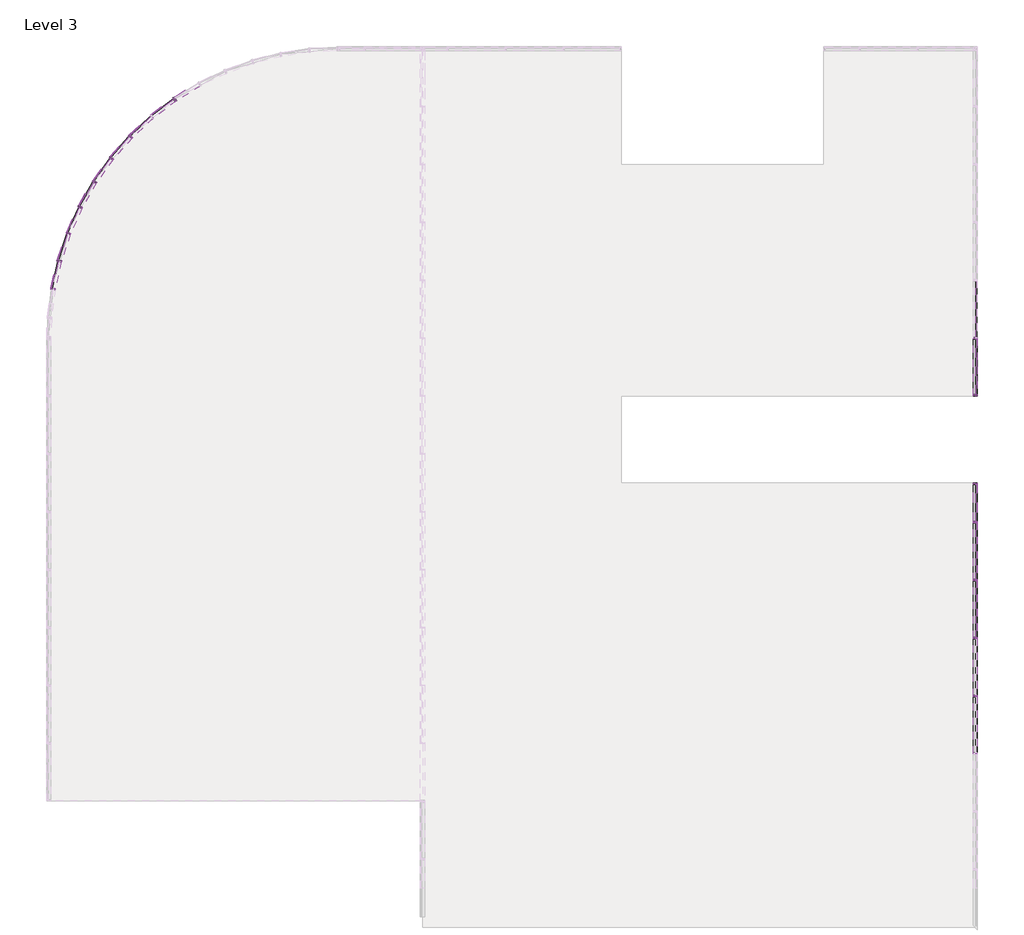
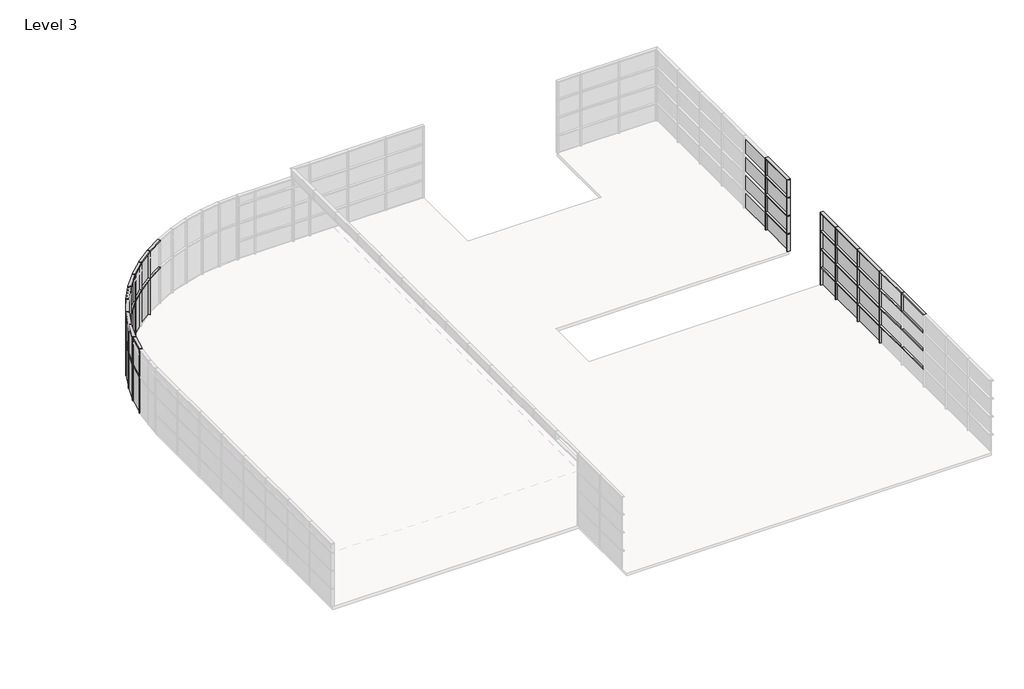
# One storey, part 4 of 6: 83 members, 36 plates.
"""IFC4 building model written with IfcOpenShell, lengths in millimetres."""

from ifc_helpers import new_model, si_unit, origin, place, context, project, spatial, transform, mapped, element, save
from components import rectangular_mullion_50_x_150mm_a053b0ca, rectangular_mullion_50_x_150mm_3a148f0f, rectangular_mullion_50_x_150mm_12a430f9, rectangular_mullion_50_x_150mm_a54f4cf2, rectangular_mullion_50_x_150mm_25f32059, rectangular_mullion_50_x_150mm_4ec38d8a, rectangular_mullion_50_x_150mm_5fc4eb71, system_panel_glazed_751a585c, system_panel_glazed_08de6f5f, system_panel_glazed_b9387e44, system_panel_glazed_24c71900, system_panel_glazed_8ec8f306

model = new_model("IFC4")

# Units and contexts
model_context = context("Model", 3, world=origin())
ifc_project = project(units=[si_unit("LENGTHUNIT", "METRE", prefix="MILLI")], contexts=[model_context])

# Site, building, storey
site = spatial("IfcSite", under=ifc_project)
building = spatial("IfcBuilding", under=site)
storey = spatial("IfcBuildingStorey", under=building, Name="Level 3", Elevation=8000.0)

# Members
placement = place(None, origin())
rectangular_mullion_50_x_150mm_shape = rectangular_mullion_50_x_150mm_a053b0ca(model_context)
element("IfcMember", 1, ObjectType="Rectangular Mullion : 50 x 150mm", at=placement, inside=storey, context=model_context, shape_type="MappedRepresentation", body=[
    mapped(rectangular_mullion_50_x_150mm_shape, transform((13503.2660975, -1624.0160434, 8025.0), x_axis=(0.0, 1.0, 0.0), y_axis=(1.0, 0.0, 0.0), z_axis=(0.0, 0.0, -1.0))),
])
element("IfcMember", 2, ObjectType="Rectangular Mullion : 50 x 150mm", at=placement, inside=storey, context=model_context, shape_type="MappedRepresentation", body=[
    mapped(rectangular_mullion_50_x_150mm_shape, transform((13503.2660975, -1624.0160434, 9025.0), x_axis=(0.0, 1.0, 0.0), y_axis=(1.0, 0.0, 0.0), z_axis=(0.0, 0.0, -1.0))),
])
element("IfcMember", 3, ObjectType="Rectangular Mullion : 50 x 150mm", at=placement, inside=storey, context=model_context, shape_type="MappedRepresentation", body=[
    mapped(rectangular_mullion_50_x_150mm_shape, transform((13503.2660975, -1624.0160434, 10025.0), x_axis=(0.0, 1.0, 0.0), y_axis=(1.0, 0.0, 0.0), z_axis=(0.0, 0.0, -1.0))),
])
element("IfcMember", 4, ObjectType="Rectangular Mullion : 50 x 150mm", at=placement, inside=storey, context=model_context, shape_type="MappedRepresentation", body=[
    mapped(rectangular_mullion_50_x_150mm_shape, transform((13503.2660975, -1624.0160434, 11025.0), x_axis=(0.0, 1.0, 0.0), y_axis=(1.0, 0.0, 0.0), z_axis=(0.0, 0.0, -1.0))),
])
element("IfcMember", 5, ObjectType="Rectangular Mullion : 50 x 150mm", at=placement, inside=storey, context=model_context, shape_type="MappedRepresentation", body=[
    mapped(rectangular_mullion_50_x_150mm_shape, transform((13503.2660975, -13988.7417365, 11025.0), x_axis=(0.0, 1.0, 0.0), y_axis=(1.0, 0.0, 0.0), z_axis=(0.0, 0.0, -0.9999999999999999))),
])
element("IfcMember", 6, ObjectType="Rectangular Mullion : 50 x 150mm", at=placement, inside=storey, context=model_context, shape_type="MappedRepresentation", body=[
    mapped(rectangular_mullion_50_x_150mm_shape, transform((13503.2660975, -11988.7417365, 8025.0), x_axis=(0.0, 1.0, 0.0), y_axis=(1.0, 0.0, 0.0), z_axis=(0.0, 0.0, -0.9999999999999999))),
])
element("IfcMember", 7, ObjectType="Rectangular Mullion : 50 x 150mm", at=placement, inside=storey, context=model_context, shape_type="MappedRepresentation", body=[
    mapped(rectangular_mullion_50_x_150mm_shape, transform((13503.2660975, -11988.7417365, 9025.0), x_axis=(0.0, 1.0, 0.0), y_axis=(1.0, 0.0, 0.0), z_axis=(0.0, 0.0, -1.0))),
])
element("IfcMember", 8, ObjectType="Rectangular Mullion : 50 x 150mm", at=placement, inside=storey, context=model_context, shape_type="MappedRepresentation", body=[
    mapped(rectangular_mullion_50_x_150mm_shape, transform((13503.2660975, -11988.7417365, 10025.0), x_axis=(0.0, 1.0, 0.0), y_axis=(1.0, 0.0, 0.0), z_axis=(0.0, 0.0, -1.0))),
])
element("IfcMember", 9, ObjectType="Rectangular Mullion : 50 x 150mm", at=placement, inside=storey, context=model_context, shape_type="MappedRepresentation", body=[
    mapped(rectangular_mullion_50_x_150mm_shape, transform((13503.2660975, -11988.7417365, 11025.0), x_axis=(0.0, 1.0, 0.0), y_axis=(1.0, 0.0, 0.0), z_axis=(0.0, 0.0, -0.9999999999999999))),
])
element("IfcMember", 10, ObjectType="Rectangular Mullion : 50 x 150mm", at=placement, inside=storey, context=model_context, shape_type="MappedRepresentation", body=[
    mapped(rectangular_mullion_50_x_150mm_shape, transform((13503.2660975, -9988.7417365, 8025.0), x_axis=(0.0, 1.0, 0.0), y_axis=(1.0, 0.0, 0.0), z_axis=(0.0, 0.0, -0.9999999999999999))),
])
element("IfcMember", 11, ObjectType="Rectangular Mullion : 50 x 150mm", at=placement, inside=storey, context=model_context, shape_type="MappedRepresentation", body=[
    mapped(rectangular_mullion_50_x_150mm_shape, transform((13503.2660975, -9988.7417365, 9025.0), x_axis=(0.0, 1.0, 0.0), y_axis=(1.0, 0.0, 0.0), z_axis=(0.0, 0.0, -1.0))),
])
element("IfcMember", 12, ObjectType="Rectangular Mullion : 50 x 150mm", at=placement, inside=storey, context=model_context, shape_type="MappedRepresentation", body=[
    mapped(rectangular_mullion_50_x_150mm_shape, transform((13503.2660975, -9988.7417365, 10025.0), x_axis=(0.0, 1.0, 0.0), y_axis=(1.0, 0.0, 0.0), z_axis=(0.0, 0.0, -1.0))),
])
element("IfcMember", 13, ObjectType="Rectangular Mullion : 50 x 150mm", at=placement, inside=storey, context=model_context, shape_type="MappedRepresentation", body=[
    mapped(rectangular_mullion_50_x_150mm_shape, transform((13503.2660975, -9988.7417365, 11025.0), x_axis=(0.0, 1.0, 0.0), y_axis=(1.0, 0.0, 0.0), z_axis=(0.0, 0.0, -0.9999999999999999))),
])
element("IfcMember", 14, ObjectType="Rectangular Mullion : 50 x 150mm", at=placement, inside=storey, context=model_context, shape_type="MappedRepresentation", body=[
    mapped(rectangular_mullion_50_x_150mm_shape, transform((13503.2660975, -7988.7417365, 8025.0), x_axis=(0.0, 1.0, 0.0), y_axis=(1.0, 0.0, 0.0), z_axis=(0.0, 0.0, -1.0))),
])
element("IfcMember", 15, ObjectType="Rectangular Mullion : 50 x 150mm", at=placement, inside=storey, context=model_context, shape_type="MappedRepresentation", body=[
    mapped(rectangular_mullion_50_x_150mm_shape, transform((13503.2660975, -7988.7417365, 9025.0), x_axis=(0.0, 1.0, 0.0), y_axis=(1.0, 0.0, 0.0), z_axis=(0.0, 0.0, -0.9999999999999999))),
])
element("IfcMember", 16, ObjectType="Rectangular Mullion : 50 x 150mm", at=placement, inside=storey, context=model_context, shape_type="MappedRepresentation", body=[
    mapped(rectangular_mullion_50_x_150mm_shape, transform((13503.2660975, -7988.7417365, 10025.0), x_axis=(0.0, 1.0, 0.0), y_axis=(1.0, 0.0, 0.0), z_axis=(0.0, 0.0, -1.0))),
])
element("IfcMember", 17, ObjectType="Rectangular Mullion : 50 x 150mm", at=placement, inside=storey, context=model_context, shape_type="MappedRepresentation", body=[
    mapped(rectangular_mullion_50_x_150mm_shape, transform((13503.2660975, -7988.7417365, 11025.0), x_axis=(0.0, 1.0, 0.0), y_axis=(1.0, 0.0, 0.0), z_axis=(0.0, 0.0, -0.9999999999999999))),
])
rectangular_mullion_50_x_150mm_2_shape = rectangular_mullion_50_x_150mm_3a148f0f(model_context)
element("IfcMember", 18, ObjectType="Rectangular Mullion : 50 x 150mm", at=placement, inside=storey, context=model_context, shape_type="MappedRepresentation", body=[
    mapped(rectangular_mullion_50_x_150mm_2_shape, transform((13503.2660975, -1624.0160434, 9000.0), x_axis=(0.0, 0.0, 1.0), y_axis=(1.0, 0.0, 0.0), z_axis=(0.0, 1.0, 0.0))),
])
element("IfcMember", 19, ObjectType="Rectangular Mullion : 50 x 150mm", at=placement, inside=storey, context=model_context, shape_type="MappedRepresentation", body=[
    mapped(rectangular_mullion_50_x_150mm_2_shape, transform((13503.2660975, -1624.0160434, 10000.0), x_axis=(0.0, 0.0, 1.0), y_axis=(1.0, 0.0, 0.0), z_axis=(0.0, 1.0, 0.0))),
])
element("IfcMember", 20, ObjectType="Rectangular Mullion : 50 x 150mm", at=placement, inside=storey, context=model_context, shape_type="MappedRepresentation", body=[
    mapped(rectangular_mullion_50_x_150mm_2_shape, transform((13503.2660975, -1624.0160434, 11000.0), x_axis=(0.0, 0.0, 1.0), y_axis=(1.0, 0.0, 0.0), z_axis=(0.0, 1.0, 0.0))),
])
element("IfcMember", 21, ObjectType="Rectangular Mullion : 50 x 150mm", at=placement, inside=storey, context=model_context, shape_type="MappedRepresentation", body=[
    mapped(rectangular_mullion_50_x_150mm_2_shape, transform((13503.2660975, -1624.0160434, 12000.0), x_axis=(0.0, 0.0, 1.0), y_axis=(1.0, 0.0, 0.0), z_axis=(0.0, 1.0, 0.0))),
])
element("IfcMember", 22, ObjectType="Rectangular Mullion : 50 x 150mm", at=placement, inside=storey, context=model_context, shape_type="MappedRepresentation", body=[
    mapped(rectangular_mullion_50_x_150mm_2_shape, transform((-14145.2241233, 6627.9266506, 8000.0), x_axis=(-0.8251942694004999, -0.564849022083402, 0.0), y_axis=(-0.5648490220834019, 0.8251942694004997, 0.0), z_axis=(0.0, 0.0, -1.0))),
])
element("IfcMember", 23, ObjectType="Rectangular Mullion : 50 x 150mm", at=placement, inside=storey, context=model_context, shape_type="MappedRepresentation", body=[
    mapped(rectangular_mullion_50_x_150mm_2_shape, transform((-15672.6193842, 5340.6567811, 8000.0), x_axis=(-0.6964672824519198, -0.7175885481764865, 0.0), y_axis=(-0.7175885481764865, 0.6964672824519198, 0.0), z_axis=(0.0, 0.0, -1.0))),
])
element("IfcMember", 24, ObjectType="Rectangular Mullion : 50 x 150mm", at=placement, inside=storey, context=model_context, shape_type="MappedRepresentation", body=[
    mapped(rectangular_mullion_50_x_150mm_2_shape, transform((-16332.3361104, 4589.1424158, 8000.0), x_axis=(-0.6213158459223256, -0.7835602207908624, 0.0), y_axis=(-0.7835602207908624, 0.6213158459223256, 0.0), z_axis=(0.0, 0.0, -1.0))),
])
element("IfcMember", 25, ObjectType="Rectangular Mullion : 50 x 150mm", at=placement, inside=storey, context=model_context, shape_type="MappedRepresentation", body=[
    mapped(rectangular_mullion_50_x_150mm_2_shape, transform((-16913.6968144, 3775.4964659, 8000.0), x_axis=(-0.5399512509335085, -0.8416962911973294, 0.0), y_axis=(-0.8416962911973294, 0.5399512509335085, 0.0), z_axis=(0.0, 0.0, -1.0))),
])
element("IfcMember", 26, ObjectType="Rectangular Mullion : 50 x 150mm", at=placement, inside=storey, context=model_context, shape_type="MappedRepresentation", body=[
    mapped(rectangular_mullion_50_x_150mm_2_shape, transform((-17410.8878894, 2907.8553909, 8000.0), x_axis=(-0.4531871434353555, -0.8914153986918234, 0.0), y_axis=(-0.8914153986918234, 0.4531871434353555, 0.0), z_axis=(0.0, 0.0, -1.0))),
])
element("IfcMember", 27, ObjectType="Rectangular Mullion : 50 x 150mm", at=placement, inside=storey, context=model_context, shape_type="MappedRepresentation", body=[
    mapped(rectangular_mullion_50_x_150mm_2_shape, transform((-17818.9374245, 1994.8956016, 8000.0), x_axis=(-0.3618911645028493, -0.932220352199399, 0.0), y_axis=(-0.932220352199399, 0.3618911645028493, 0.0), z_axis=(0.0, 0.0, -1.0))),
])
element("IfcMember", 28, ObjectType="Rectangular Mullion : 50 x 150mm", at=placement, inside=storey, context=model_context, shape_type="MappedRepresentation", body=[
    mapped(rectangular_mullion_50_x_150mm_2_shape, transform((-18133.7649243, 1045.7466958, 8000.0), x_axis=(-0.2669762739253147, -0.9637031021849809, 0.0), y_axis=(-0.9637031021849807, 0.26697627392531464, 0.0), z_axis=(0.0, 0.0, -1.0))),
])
element("IfcMember", 29, ObjectType="Rectangular Mullion : 50 x 150mm", at=placement, inside=storey, context=model_context, shape_type="MappedRepresentation", body=[
    mapped(rectangular_mullion_50_x_150mm_2_shape, transform((-18352.222114, 69.9001627, 8000.0), x_axis=(-0.1693916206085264, -0.9855488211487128, 0.0), y_axis=(-0.9855488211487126, 0.16939162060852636, 0.0), z_axis=(0.0, 0.0, -1.0))),
])
element("IfcMember", 30, ObjectType="Rectangular Mullion : 50 x 150mm", at=placement, inside=storey, context=model_context, shape_type="MappedRepresentation", body=[
    mapped(rectangular_mullion_50_x_150mm_2_shape, transform((13503.2660975, -13988.7417365, 9000.0), x_axis=(0.0, 0.0, 1.0), y_axis=(1.0, 0.0, 0.0), z_axis=(0.0, 1.0, 0.0))),
])
element("IfcMember", 31, ObjectType="Rectangular Mullion : 50 x 150mm", at=placement, inside=storey, context=model_context, shape_type="MappedRepresentation", body=[
    mapped(rectangular_mullion_50_x_150mm_2_shape, transform((13503.2660975, -11988.7417365, 9000.0), x_axis=(0.0, 0.0, 1.0), y_axis=(1.0, 0.0, 0.0), z_axis=(0.0, 1.0, 0.0))),
])
element("IfcMember", 32, ObjectType="Rectangular Mullion : 50 x 150mm", at=placement, inside=storey, context=model_context, shape_type="MappedRepresentation", body=[
    mapped(rectangular_mullion_50_x_150mm_2_shape, transform((13503.2660975, -9988.7417365, 9000.0), x_axis=(0.0, 0.0, 1.0), y_axis=(1.0, 0.0, 0.0), z_axis=(0.0, 1.0, 0.0))),
])
element("IfcMember", 33, ObjectType="Rectangular Mullion : 50 x 150mm", at=placement, inside=storey, context=model_context, shape_type="MappedRepresentation", body=[
    mapped(rectangular_mullion_50_x_150mm_2_shape, transform((13503.2660975, -7988.7417365, 9000.0), x_axis=(0.0, 0.0, 1.0), y_axis=(1.0, 0.0, 0.0), z_axis=(0.0, 1.0, 0.0))),
])
element("IfcMember", 34, ObjectType="Rectangular Mullion : 50 x 150mm", at=placement, inside=storey, context=model_context, shape_type="MappedRepresentation", body=[
    mapped(rectangular_mullion_50_x_150mm_2_shape, transform((13503.2660975, -13988.7417365, 10000.0), x_axis=(0.0, 0.0, 1.0), y_axis=(1.0, 0.0, 0.0), z_axis=(0.0, 1.0, 0.0))),
])
element("IfcMember", 35, ObjectType="Rectangular Mullion : 50 x 150mm", at=placement, inside=storey, context=model_context, shape_type="MappedRepresentation", body=[
    mapped(rectangular_mullion_50_x_150mm_2_shape, transform((13503.2660975, -11988.7417365, 10000.0), x_axis=(0.0, 0.0, 1.0), y_axis=(1.0, 0.0, 0.0), z_axis=(0.0, 1.0, 0.0))),
])
element("IfcMember", 36, ObjectType="Rectangular Mullion : 50 x 150mm", at=placement, inside=storey, context=model_context, shape_type="MappedRepresentation", body=[
    mapped(rectangular_mullion_50_x_150mm_2_shape, transform((13503.2660975, -9988.7417365, 10000.0), x_axis=(0.0, 0.0, 1.0), y_axis=(1.0, 0.0, 0.0), z_axis=(0.0, 1.0, 0.0))),
])
element("IfcMember", 37, ObjectType="Rectangular Mullion : 50 x 150mm", at=placement, inside=storey, context=model_context, shape_type="MappedRepresentation", body=[
    mapped(rectangular_mullion_50_x_150mm_2_shape, transform((13503.2660975, -7988.7417365, 10000.0), x_axis=(0.0, 0.0, 1.0), y_axis=(1.0, 0.0, 0.0), z_axis=(0.0, 1.0, 0.0))),
])
element("IfcMember", 38, ObjectType="Rectangular Mullion : 50 x 150mm", at=placement, inside=storey, context=model_context, shape_type="MappedRepresentation", body=[
    mapped(rectangular_mullion_50_x_150mm_2_shape, transform((13503.2660975, -13988.7417365, 11000.0), x_axis=(0.0, 0.0, 1.0), y_axis=(1.0, 0.0, 0.0), z_axis=(0.0, 1.0, 0.0))),
])
element("IfcMember", 39, ObjectType="Rectangular Mullion : 50 x 150mm", at=placement, inside=storey, context=model_context, shape_type="MappedRepresentation", body=[
    mapped(rectangular_mullion_50_x_150mm_2_shape, transform((13503.2660975, -11988.7417365, 11000.0), x_axis=(0.0, 0.0, 1.0), y_axis=(1.0, 0.0, 0.0), z_axis=(0.0, 1.0, 0.0))),
])
element("IfcMember", 40, ObjectType="Rectangular Mullion : 50 x 150mm", at=placement, inside=storey, context=model_context, shape_type="MappedRepresentation", body=[
    mapped(rectangular_mullion_50_x_150mm_2_shape, transform((13503.2660975, -9988.7417365, 11000.0), x_axis=(0.0, 0.0, 1.0), y_axis=(1.0, 0.0, 0.0), z_axis=(0.0, 1.0, 0.0))),
])
element("IfcMember", 41, ObjectType="Rectangular Mullion : 50 x 150mm", at=placement, inside=storey, context=model_context, shape_type="MappedRepresentation", body=[
    mapped(rectangular_mullion_50_x_150mm_2_shape, transform((13503.2660975, -7988.7417365, 11000.0), x_axis=(0.0, 0.0, 1.0), y_axis=(1.0, 0.0, 0.0), z_axis=(0.0, 1.0, 0.0))),
])
element("IfcMember", 42, ObjectType="Rectangular Mullion : 50 x 150mm", at=placement, inside=storey, context=model_context, shape_type="MappedRepresentation", body=[
    mapped(rectangular_mullion_50_x_150mm_2_shape, transform((13503.2660975, -13988.7417365, 12000.0), x_axis=(0.0, 0.0, 1.0), y_axis=(1.0, 0.0, 0.0), z_axis=(0.0, 1.0, 0.0))),
])
element("IfcMember", 43, ObjectType="Rectangular Mullion : 50 x 150mm", at=placement, inside=storey, context=model_context, shape_type="MappedRepresentation", body=[
    mapped(rectangular_mullion_50_x_150mm_2_shape, transform((13503.2660975, -11988.7417365, 12000.0), x_axis=(0.0, 0.0, 1.0), y_axis=(1.0, 0.0, 0.0), z_axis=(0.0, 1.0, 0.0))),
])
element("IfcMember", 44, ObjectType="Rectangular Mullion : 50 x 150mm", at=placement, inside=storey, context=model_context, shape_type="MappedRepresentation", body=[
    mapped(rectangular_mullion_50_x_150mm_2_shape, transform((13503.2660975, -9988.7417365, 12000.0), x_axis=(0.0, 0.0, 1.0), y_axis=(1.0, 0.0, 0.0), z_axis=(0.0, 1.0, 0.0))),
])
element("IfcMember", 45, ObjectType="Rectangular Mullion : 50 x 150mm", at=placement, inside=storey, context=model_context, shape_type="MappedRepresentation", body=[
    mapped(rectangular_mullion_50_x_150mm_2_shape, transform((13503.2660975, -7988.7417365, 12000.0), x_axis=(0.0, 0.0, 1.0), y_axis=(1.0, 0.0, 0.0), z_axis=(0.0, 1.0, 0.0))),
])
rectangular_mullion_50_x_150mm_3_shape = rectangular_mullion_50_x_150mm_12a430f9(model_context)
element("IfcMember", 46, ObjectType="Rectangular Mullion : 50 x 150mm", at=placement, inside=storey, context=model_context, shape_type="MappedRepresentation", body=[
    mapped(rectangular_mullion_50_x_150mm_3_shape, transform((13503.2660975, -3624.0160434, 8975.0), x_axis=(0.0, -1.0, 0.0), y_axis=(1.0, 0.0, 0.0), z_axis=(0.0, 0.0, 1.0))),
])
element("IfcMember", 47, ObjectType="Rectangular Mullion : 50 x 150mm", at=placement, inside=storey, context=model_context, shape_type="MappedRepresentation", body=[
    mapped(rectangular_mullion_50_x_150mm_3_shape, transform((13503.2660975, -3624.0160434, 9975.0), x_axis=(0.0, -1.0, 0.0), y_axis=(1.0, 0.0, 0.0), z_axis=(0.0, 0.0, 1.0))),
])
element("IfcMember", 48, ObjectType="Rectangular Mullion : 50 x 150mm", at=placement, inside=storey, context=model_context, shape_type="MappedRepresentation", body=[
    mapped(rectangular_mullion_50_x_150mm_3_shape, transform((13503.2660975, -3624.0160434, 10975.0), x_axis=(0.0, -1.0, 0.0), y_axis=(1.0, 0.0, 0.0), z_axis=(0.0, 0.0, 1.0))),
])
element("IfcMember", 49, ObjectType="Rectangular Mullion : 50 x 150mm", at=placement, inside=storey, context=model_context, shape_type="MappedRepresentation", body=[
    mapped(rectangular_mullion_50_x_150mm_3_shape, transform((13503.2660975, -3624.0160434, 11975.0), x_axis=(0.0, -1.0, 0.0), y_axis=(1.0, 0.0, 0.0), z_axis=(0.0, 0.0, 1.0))),
])
element("IfcMember", 50, ObjectType="Rectangular Mullion : 50 x 150mm", at=placement, inside=storey, context=model_context, shape_type="MappedRepresentation", body=[
    mapped(rectangular_mullion_50_x_150mm_3_shape, transform((13503.2660975, -6624.0160434, 8025.0), x_axis=(0.0, 1.0, 0.0), y_axis=(1.0, 0.0, 0.0), z_axis=(0.0, 0.0, -1.0))),
])
element("IfcMember", 51, ObjectType="Rectangular Mullion : 50 x 150mm", at=placement, inside=storey, context=model_context, shape_type="MappedRepresentation", body=[
    mapped(rectangular_mullion_50_x_150mm_3_shape, transform((13503.2660975, -6624.0160434, 9025.0), x_axis=(0.0, 1.0, 0.0), y_axis=(1.0, 0.0, 0.0), z_axis=(0.0, 0.0, -1.0))),
])
element("IfcMember", 52, ObjectType="Rectangular Mullion : 50 x 150mm", at=placement, inside=storey, context=model_context, shape_type="MappedRepresentation", body=[
    mapped(rectangular_mullion_50_x_150mm_3_shape, transform((13503.2660975, -6624.0160434, 10025.0), x_axis=(0.0, 1.0, 0.0), y_axis=(1.0, 0.0, 0.0), z_axis=(0.0, 0.0, -1.0))),
])
element("IfcMember", 53, ObjectType="Rectangular Mullion : 50 x 150mm", at=placement, inside=storey, context=model_context, shape_type="MappedRepresentation", body=[
    mapped(rectangular_mullion_50_x_150mm_3_shape, transform((13503.2660975, -6624.0160434, 11025.0), x_axis=(0.0, 1.0, 0.0), y_axis=(1.0, 0.0, 0.0), z_axis=(0.0, 0.0, -1.0))),
])
rectangular_mullion_50_x_150mm_4_shape = rectangular_mullion_50_x_150mm_a54f4cf2(model_context)
element("IfcMember", 54, ObjectType="Rectangular Mullion : 50 x 150mm", at=placement, inside=storey, context=model_context, shape_type="MappedRepresentation", body=[
    mapped(rectangular_mullion_50_x_150mm_4_shape, transform((-14123.9140088, 6640.9987207, 11530.2574105), x_axis=(0.0, 0.0, 1.0), y_axis=(-0.5228828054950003, 0.8524045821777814, 0.0), z_axis=(-0.8524045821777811, -0.5228828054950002, 0.0))),
])
element("IfcMember", 55, ObjectType="Rectangular Mullion : 50 x 150mm", at=placement, inside=storey, context=model_context, shape_type="MappedRepresentation", body=[
    mapped(rectangular_mullion_50_x_150mm_4_shape, transform((-14921.2458113, 6037.6594739, 11530.2574105), x_axis=(0.0, 0.0, 1.0), y_axis=(-0.6054022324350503, 0.7959196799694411, 0.0), z_axis=(-0.7959196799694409, -0.6054022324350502, 0.0))),
])
element("IfcMember", 56, ObjectType="Rectangular Mullion : 50 x 150mm", at=placement, inside=storey, context=model_context, shape_type="MappedRepresentation", body=[
    mapped(rectangular_mullion_50_x_150mm_4_shape, transform((-15654.3324947, 5357.703472, 11530.2574105), x_axis=(0.0, 0.0, 1.0), y_axis=(-0.6818676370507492, 0.7314755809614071, 0.0), z_axis=(-0.731475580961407, -0.681867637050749, 0.0))),
])
element("IfcMember", 57, ObjectType="Rectangular Mullion : 50 x 150mm", at=placement, inside=storey, context=model_context, shape_type="MappedRepresentation", body=[
    mapped(rectangular_mullion_50_x_150mm_4_shape, transform((-16315.8431922, 4607.9302749, 11530.2574105), x_axis=(0.0, 0.0, 1.0), y_axis=(-0.7515143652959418, 0.6597167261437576, 0.0), z_axis=(-0.6597167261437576, -0.7515143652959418, 0.0))),
])
element("IfcMember", 58, ObjectType="Rectangular Mullion : 50 x 150mm", at=placement, inside=storey, context=model_context, shape_type="MappedRepresentation", body=[
    mapped(rectangular_mullion_50_x_150mm_4_shape, transform((-16899.1627968, 3795.8376146, 11530.2574105), x_axis=(0.0, 0.0, 1.0), y_axis=(-0.8136459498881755, 0.5813607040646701, 0.0), z_axis=(-0.58136070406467, -0.8136459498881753, 0.0))),
])
element("IfcMember", 59, ObjectType="Rectangular Mullion : 50 x 150mm", at=placement, inside=storey, context=model_context, shape_type="MappedRepresentation", body=[
    mapped(rectangular_mullion_50_x_150mm_4_shape, transform((-17398.4581125, 2929.5464178, 11530.2574105), x_axis=(0.0, 0.0, 1.0), y_axis=(-0.8676410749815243, 0.4971910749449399, 0.0), z_axis=(-0.4971910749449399, -0.8676410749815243, 0.0))),
])
element("IfcMember", 60, ObjectType="Rectangular Mullion : 50 x 150mm", at=placement, inside=storey, context=model_context, shape_type="MappedRepresentation", body=[
    mapped(rectangular_mullion_50_x_150mm_4_shape, transform((-17808.7361861, 2017.7195963, 11530.2574105), x_axis=(0.0, 0.0, 1.0), y_axis=(-0.9129597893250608, 0.4080495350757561, 0.0), z_axis=(-0.4080495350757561, -0.9129597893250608, 0.0))),
])
element("IfcMember", 61, ObjectType="Rectangular Mullion : 50 x 150mm", at=placement, inside=storey, context=model_context, shape_type="MappedRepresentation", body=[
    mapped(rectangular_mullion_50_x_150mm_4_shape, transform((-18125.8942368, 1069.4754185, 11530.2574105), x_axis=(0.0, 0.0, 1.0), y_axis=(-0.9491489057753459, 0.31482749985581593, 0.0), z_axis=(-0.3148274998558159, -0.9491489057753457, 0.0))),
])
element("IfcMember", 62, ObjectType="Rectangular Mullion : 50 x 150mm", at=placement, inside=storey, context=model_context, shape_type="MappedRepresentation", body=[
    mapped(rectangular_mullion_50_x_150mm_4_shape, transform((-18346.7606842, 94.296326, 11530.2574105), x_axis=(0.0, 0.0, 1.0), y_axis=(-0.9758465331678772, 0.218457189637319, 0.0), z_axis=(-0.21845718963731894, -0.975846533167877, 0.0))),
])
rectangular_mullion_50_x_150mm_5_shape = rectangular_mullion_50_x_150mm_25f32059(model_context)
element("IfcMember", 63, ObjectType="Rectangular Mullion : 50 x 150mm", at=placement, inside=storey, context=model_context, shape_type="MappedRepresentation", body=[
    mapped(rectangular_mullion_50_x_150mm_5_shape, transform((-14123.9140088, 6640.9987207, 10000.0), x_axis=(0.0, 0.0, 1.0), y_axis=(-0.5228828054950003, 0.8524045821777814, 0.0), z_axis=(-0.8524045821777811, -0.5228828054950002, 0.0))),
])
element("IfcMember", 64, ObjectType="Rectangular Mullion : 50 x 150mm", at=placement, inside=storey, context=model_context, shape_type="MappedRepresentation", body=[
    mapped(rectangular_mullion_50_x_150mm_5_shape, transform((-14921.2458113, 6037.6594739, 10000.0), x_axis=(0.0, 0.0, 1.0), y_axis=(-0.6054022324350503, 0.795919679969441, 0.0), z_axis=(-0.795919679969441, -0.6054022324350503, 0.0))),
])
element("IfcMember", 65, ObjectType="Rectangular Mullion : 50 x 150mm", at=placement, inside=storey, context=model_context, shape_type="MappedRepresentation", body=[
    mapped(rectangular_mullion_50_x_150mm_5_shape, transform((-15654.3324947, 5357.703472, 10000.0), x_axis=(0.0, 0.0, 1.0), y_axis=(-0.6818676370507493, 0.731475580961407, 0.0), z_axis=(-0.731475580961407, -0.6818676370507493, 0.0))),
])
element("IfcMember", 66, ObjectType="Rectangular Mullion : 50 x 150mm", at=placement, inside=storey, context=model_context, shape_type="MappedRepresentation", body=[
    mapped(rectangular_mullion_50_x_150mm_5_shape, transform((-16315.8431922, 4607.9302749, 10000.0), x_axis=(0.0, 0.0, 1.0), y_axis=(-0.7515143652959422, 0.6597167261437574, 0.0), z_axis=(-0.6597167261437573, -0.751514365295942, 0.0))),
])
element("IfcMember", 67, ObjectType="Rectangular Mullion : 50 x 150mm", at=placement, inside=storey, context=model_context, shape_type="MappedRepresentation", body=[
    mapped(rectangular_mullion_50_x_150mm_5_shape, transform((-16899.1627968, 3795.8376146, 10000.0), x_axis=(0.0, 0.0, 1.0), y_axis=(-0.8136459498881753, 0.5813607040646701, 0.0), z_axis=(-0.5813607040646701, -0.8136459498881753, 0.0))),
])
element("IfcMember", 68, ObjectType="Rectangular Mullion : 50 x 150mm", at=placement, inside=storey, context=model_context, shape_type="MappedRepresentation", body=[
    mapped(rectangular_mullion_50_x_150mm_5_shape, transform((-17398.4581125, 2929.5464178, 10000.0), x_axis=(0.0, 0.0, 0.9999999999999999), y_axis=(-0.8676410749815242, 0.49719107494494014, 0.0), z_axis=(-0.4971910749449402, -0.8676410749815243, 0.0))),
])
element("IfcMember", 69, ObjectType="Rectangular Mullion : 50 x 150mm", at=placement, inside=storey, context=model_context, shape_type="MappedRepresentation", body=[
    mapped(rectangular_mullion_50_x_150mm_5_shape, transform((-17808.7361861, 2017.7195963, 10000.0), x_axis=(0.0, 0.0, 1.0), y_axis=(-0.9129597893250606, 0.4080495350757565, 0.0), z_axis=(-0.4080495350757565, -0.9129597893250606, 0.0))),
])
element("IfcMember", 70, ObjectType="Rectangular Mullion : 50 x 150mm", at=placement, inside=storey, context=model_context, shape_type="MappedRepresentation", body=[
    mapped(rectangular_mullion_50_x_150mm_5_shape, transform((-18125.8942368, 1069.4754185, 10000.0), x_axis=(0.0, 0.0, 1.0), y_axis=(-0.9491489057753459, 0.31482749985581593, 0.0), z_axis=(-0.3148274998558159, -0.9491489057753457, 0.0))),
])
element("IfcMember", 71, ObjectType="Rectangular Mullion : 50 x 150mm", at=placement, inside=storey, context=model_context, shape_type="MappedRepresentation", body=[
    mapped(rectangular_mullion_50_x_150mm_5_shape, transform((-18346.7606842, 94.296326, 10000.0), x_axis=(0.0, 0.0, 1.0), y_axis=(-0.9758465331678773, 0.21845718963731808, 0.0), z_axis=(-0.21845718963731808, -0.9758465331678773, 0.0))),
])
rectangular_mullion_50_x_150mm_6_shape = rectangular_mullion_50_x_150mm_4ec38d8a(model_context)
element("IfcMember", 72, ObjectType="Rectangular Mullion : 50 x 150mm", at=placement, inside=storey, context=model_context, shape_type="MappedRepresentation", body=[
    mapped(rectangular_mullion_50_x_150mm_6_shape, transform((-14145.2241233, 6627.9266506, 10000.0), x_axis=(-0.8251942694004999, -0.564849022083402, 0.0), y_axis=(-0.5648490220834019, 0.8251942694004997, 0.0), z_axis=(0.0, 0.0, -1.0))),
])
element("IfcMember", 73, ObjectType="Rectangular Mullion : 50 x 150mm", at=placement, inside=storey, context=model_context, shape_type="MappedRepresentation", body=[
    mapped(rectangular_mullion_50_x_150mm_6_shape, transform((-15672.6193842, 5340.6567811, 10000.0), x_axis=(-0.6964672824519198, -0.7175885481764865, 0.0), y_axis=(-0.7175885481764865, 0.6964672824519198, 0.0), z_axis=(0.0, 0.0, -1.0))),
])
element("IfcMember", 74, ObjectType="Rectangular Mullion : 50 x 150mm", at=placement, inside=storey, context=model_context, shape_type="MappedRepresentation", body=[
    mapped(rectangular_mullion_50_x_150mm_6_shape, transform((-16332.3361104, 4589.1424158, 10000.0), x_axis=(-0.6213158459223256, -0.7835602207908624, 0.0), y_axis=(-0.7835602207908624, 0.6213158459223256, 0.0), z_axis=(0.0, 0.0, -1.0))),
])
element("IfcMember", 75, ObjectType="Rectangular Mullion : 50 x 150mm", at=placement, inside=storey, context=model_context, shape_type="MappedRepresentation", body=[
    mapped(rectangular_mullion_50_x_150mm_6_shape, transform((-16913.6968144, 3775.4964659, 10000.0), x_axis=(-0.5399512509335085, -0.8416962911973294, 0.0), y_axis=(-0.8416962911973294, 0.5399512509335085, 0.0), z_axis=(0.0, 0.0, -1.0))),
])
element("IfcMember", 76, ObjectType="Rectangular Mullion : 50 x 150mm", at=placement, inside=storey, context=model_context, shape_type="MappedRepresentation", body=[
    mapped(rectangular_mullion_50_x_150mm_6_shape, transform((-17410.8878894, 2907.8553909, 10000.0), x_axis=(-0.4531871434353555, -0.8914153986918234, 0.0), y_axis=(-0.8914153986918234, 0.4531871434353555, 0.0), z_axis=(0.0, 0.0, -1.0))),
])
element("IfcMember", 77, ObjectType="Rectangular Mullion : 50 x 150mm", at=placement, inside=storey, context=model_context, shape_type="MappedRepresentation", body=[
    mapped(rectangular_mullion_50_x_150mm_6_shape, transform((-17818.9374245, 1994.8956016, 10000.0), x_axis=(-0.3618911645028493, -0.932220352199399, 0.0), y_axis=(-0.932220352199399, 0.3618911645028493, 0.0), z_axis=(0.0, 0.0, -1.0))),
])
element("IfcMember", 78, ObjectType="Rectangular Mullion : 50 x 150mm", at=placement, inside=storey, context=model_context, shape_type="MappedRepresentation", body=[
    mapped(rectangular_mullion_50_x_150mm_6_shape, transform((-18133.7649243, 1045.7466958, 10000.0), x_axis=(-0.26697627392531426, -0.963703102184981, 0.0), y_axis=(-0.9637031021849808, 0.2669762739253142, 0.0), z_axis=(0.0, 0.0, -1.0))),
])
element("IfcMember", 79, ObjectType="Rectangular Mullion : 50 x 150mm", at=placement, inside=storey, context=model_context, shape_type="MappedRepresentation", body=[
    mapped(rectangular_mullion_50_x_150mm_6_shape, transform((-18352.222114, 69.9001627, 10000.0), x_axis=(-0.1693916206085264, -0.9855488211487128, 0.0), y_axis=(-0.9855488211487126, 0.16939162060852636, 0.0), z_axis=(0.0, 0.0, -1.0))),
])
rectangular_mullion_50_x_150mm_7_shape = rectangular_mullion_50_x_150mm_5fc4eb71(model_context)
element("IfcMember", 80, ObjectType="Rectangular Mullion : 50 x 150mm", at=placement, inside=storey, context=model_context, shape_type="MappedRepresentation", body=[
    mapped(rectangular_mullion_50_x_150mm_7_shape, transform((13503.2660975, -6624.0160434, 10000.0), x_axis=(0.0, 0.0, 1.0), y_axis=(1.0, 0.0, 0.0), z_axis=(0.0, 1.0, 0.0))),
])
element("IfcMember", 81, ObjectType="Rectangular Mullion : 50 x 150mm", at=placement, inside=storey, context=model_context, shape_type="MappedRepresentation", body=[
    mapped(rectangular_mullion_50_x_150mm_7_shape, transform((13503.2660975, -6624.0160434, 11000.0), x_axis=(0.0, 0.0, 1.0), y_axis=(1.0, 0.0, 0.0), z_axis=(0.0, 1.0, 0.0))),
])
element("IfcMember", 82, ObjectType="Rectangular Mullion : 50 x 150mm", at=placement, inside=storey, context=model_context, shape_type="MappedRepresentation", body=[
    mapped(rectangular_mullion_50_x_150mm_7_shape, transform((13503.2660975, -6624.0160434, 12000.0), x_axis=(0.0, 0.0, 1.0), y_axis=(1.0, 0.0, 0.0), z_axis=(0.0, 1.0, 0.0))),
])
element("IfcMember", 83, ObjectType="Rectangular Mullion : 50 x 150mm", at=placement, inside=storey, context=model_context, shape_type="MappedRepresentation", body=[
    mapped(rectangular_mullion_50_x_150mm_7_shape, transform((13503.2660975, -6624.0160434, 9000.0), x_axis=(0.0, 0.0, 1.0), y_axis=(1.0, 0.0, 0.0), z_axis=(0.0, 1.0, 0.0))),
])

# Plates
system_panel_glazed_shape = system_panel_glazed_751a585c(model_context)
element("IfcPlate", 84, ObjectType="System Panel : Glazed", at=placement, inside=storey, context=model_context, shape_type="MappedRepresentation", body=[
    mapped(system_panel_glazed_shape, transform((13503.2660975, -3574.0160434, 8500.0), x_axis=(0.0, 0.0, 1.0), y_axis=(1.0, 0.0, 0.0), z_axis=(0.0, 1.0, 0.0))),
])
element("IfcPlate", 85, ObjectType="System Panel : Glazed", at=placement, inside=storey, context=model_context, shape_type="MappedRepresentation", body=[
    mapped(system_panel_glazed_shape, transform((13503.2660975, -3574.0160434, 9500.0), x_axis=(0.0, 0.0, 1.0), y_axis=(1.0, 0.0, 0.0), z_axis=(0.0, 1.0, 0.0))),
])
element("IfcPlate", 86, ObjectType="System Panel : Glazed", at=placement, inside=storey, context=model_context, shape_type="MappedRepresentation", body=[
    mapped(system_panel_glazed_shape, transform((13503.2660975, -3574.0160434, 10500.0), x_axis=(0.0, 0.0, 1.0), y_axis=(1.0, 0.0, 0.0), z_axis=(0.0, 1.0, 0.0))),
])
element("IfcPlate", 87, ObjectType="System Panel : Glazed", at=placement, inside=storey, context=model_context, shape_type="MappedRepresentation", body=[
    mapped(system_panel_glazed_shape, transform((13503.2660975, -3574.0160434, 11500.0), x_axis=(0.0, 0.0, 1.0), y_axis=(1.0, 0.0, 0.0), z_axis=(0.0, 1.0, 0.0))),
])
system_panel_glazed_2_shape = system_panel_glazed_08de6f5f(model_context)
element("IfcPlate", 88, ObjectType="System Panel : Glazed", at=placement, inside=storey, context=model_context, shape_type="MappedRepresentation", body=[
    mapped(system_panel_glazed_2_shape, transform((13503.2660975, -11963.7417365, 8500.0), x_axis=(0.0, 0.0, 1.0), y_axis=(1.0, 0.0, 0.0), z_axis=(0.0, 1.0, 0.0))),
])
element("IfcPlate", 89, ObjectType="System Panel : Glazed", at=placement, inside=storey, context=model_context, shape_type="MappedRepresentation", body=[
    mapped(system_panel_glazed_2_shape, transform((13503.2660975, -11963.7417365, 9500.0), x_axis=(0.0, 0.0, 1.0), y_axis=(1.0, 0.0, 0.0), z_axis=(0.0, 1.0, 0.0))),
])
element("IfcPlate", 90, ObjectType="System Panel : Glazed", at=placement, inside=storey, context=model_context, shape_type="MappedRepresentation", body=[
    mapped(system_panel_glazed_2_shape, transform((13503.2660975, -9963.7417365, 8500.0), x_axis=(0.0, 0.0, 1.0), y_axis=(1.0, 0.0, 0.0), z_axis=(0.0, 1.0, 0.0))),
])
element("IfcPlate", 91, ObjectType="System Panel : Glazed", at=placement, inside=storey, context=model_context, shape_type="MappedRepresentation", body=[
    mapped(system_panel_glazed_2_shape, transform((13503.2660975, -9963.7417365, 9500.0), x_axis=(0.0, 0.0, 1.0), y_axis=(1.0, 0.0, 0.0), z_axis=(0.0, 1.0, 0.0))),
])
element("IfcPlate", 92, ObjectType="System Panel : Glazed", at=placement, inside=storey, context=model_context, shape_type="MappedRepresentation", body=[
    mapped(system_panel_glazed_2_shape, transform((13503.2660975, -1599.0160434, 8500.0), x_axis=(0.0, 0.0, 1.0), y_axis=(1.0, 0.0, 0.0), z_axis=(0.0, 1.0, 0.0))),
])
element("IfcPlate", 93, ObjectType="System Panel : Glazed", at=placement, inside=storey, context=model_context, shape_type="MappedRepresentation", body=[
    mapped(system_panel_glazed_2_shape, transform((13503.2660975, -1599.0160434, 9500.0), x_axis=(0.0, 0.0, 1.0), y_axis=(1.0, 0.0, 0.0), z_axis=(0.0, 1.0, 0.0))),
])
element("IfcPlate", 94, ObjectType="System Panel : Glazed", at=placement, inside=storey, context=model_context, shape_type="MappedRepresentation", body=[
    mapped(system_panel_glazed_2_shape, transform((13503.2660975, -11963.7417365, 10500.0), x_axis=(0.0, 0.0, 1.0), y_axis=(1.0, 0.0, 0.0), z_axis=(0.0, 1.0, 0.0))),
])
element("IfcPlate", 95, ObjectType="System Panel : Glazed", at=placement, inside=storey, context=model_context, shape_type="MappedRepresentation", body=[
    mapped(system_panel_glazed_2_shape, transform((13503.2660975, -9963.7417365, 10500.0), x_axis=(0.0, 0.0, 1.0), y_axis=(1.0, 0.0, 0.0), z_axis=(0.0, 1.0, 0.0))),
])
element("IfcPlate", 96, ObjectType="System Panel : Glazed", at=placement, inside=storey, context=model_context, shape_type="MappedRepresentation", body=[
    mapped(system_panel_glazed_2_shape, transform((13503.2660975, -11963.7417365, 11500.0), x_axis=(0.0, 0.0, 1.0), y_axis=(1.0, 0.0, 0.0), z_axis=(0.0, 1.0, 0.0))),
])
element("IfcPlate", 97, ObjectType="System Panel : Glazed", at=placement, inside=storey, context=model_context, shape_type="MappedRepresentation", body=[
    mapped(system_panel_glazed_2_shape, transform((13503.2660975, -9963.7417365, 11500.0), x_axis=(0.0, 0.0, 1.0), y_axis=(1.0, 0.0, 0.0), z_axis=(0.0, 1.0, 0.0))),
])
element("IfcPlate", 98, ObjectType="System Panel : Glazed", at=placement, inside=storey, context=model_context, shape_type="MappedRepresentation", body=[
    mapped(system_panel_glazed_2_shape, transform((13503.2660975, -1599.0160434, 10500.0), x_axis=(0.0, 0.0, 1.0), y_axis=(1.0, 0.0, 0.0), z_axis=(0.0, 1.0, 0.0))),
])
element("IfcPlate", 99, ObjectType="System Panel : Glazed", at=placement, inside=storey, context=model_context, shape_type="MappedRepresentation", body=[
    mapped(system_panel_glazed_2_shape, transform((13503.2660975, -1599.0160434, 11500.0), x_axis=(0.0, 0.0, 1.0), y_axis=(1.0, 0.0, 0.0), z_axis=(0.0, 1.0, 0.0))),
])
system_panel_glazed_3_shape = system_panel_glazed_b9387e44(model_context)
element("IfcPlate", 100, ObjectType="System Panel : Glazed", at=placement, inside=storey, context=model_context, shape_type="MappedRepresentation", body=[
    mapped(system_panel_glazed_3_shape, transform((-14543.1839633, 6325.2255344, 8025.0), x_axis=(-0.7959196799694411, -0.6054022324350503, 0.0), y_axis=(0.6054022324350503, -0.7959196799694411, 0.0), z_axis=(0.0, 0.0, 1.0))),
])
element("IfcPlate", 101, ObjectType="System Panel : Glazed", at=placement, inside=storey, context=model_context, shape_type="MappedRepresentation", body=[
    mapped(system_panel_glazed_3_shape, transform((-15306.8815938, 5681.5905996, 8025.0), x_axis=(-0.731475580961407, -0.6818676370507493, 0.0), y_axis=(0.6818676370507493, -0.731475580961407, 0.0), z_axis=(0.0, 0.0, 1.0))),
])
element("IfcPlate", 102, ObjectType="System Panel : Glazed", at=placement, inside=storey, context=model_context, shape_type="MappedRepresentation", body=[
    mapped(system_panel_glazed_3_shape, transform((-16002.4777473, 4964.8995984, 8025.0), x_axis=(-0.6597167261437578, -0.7515143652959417, 0.0), y_axis=(0.7515143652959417, -0.6597167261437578, 0.0), z_axis=(0.0, 0.0, 1.0))),
])
element("IfcPlate", 103, ObjectType="System Panel : Glazed", at=placement, inside=storey, context=model_context, shape_type="MappedRepresentation", body=[
    mapped(system_panel_glazed_3_shape, transform((-16623.0164624, 4182.3194408, 8025.0), x_axis=(-0.5813607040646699, -0.8136459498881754, 0.0), y_axis=(0.8136459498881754, -0.5813607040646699, 0.0), z_axis=(0.0, 0.0, 1.0))),
])
element("IfcPlate", 104, ObjectType="System Panel : Glazed", at=placement, inside=storey, context=model_context, shape_type="MappedRepresentation", body=[
    mapped(system_panel_glazed_3_shape, transform((-17162.2923519, 3341.6759284, 8025.0), x_axis=(-0.49719107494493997, -0.8676410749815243, 0.0), y_axis=(0.8676410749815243, -0.49719107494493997, 0.0), z_axis=(0.0, 0.0, 1.0))),
])
element("IfcPlate", 105, ObjectType="System Panel : Glazed", at=placement, inside=storey, context=model_context, shape_type="MappedRepresentation", body=[
    mapped(system_panel_glazed_3_shape, transform((-17614.9126569, 2451.3754963, 8025.0), x_axis=(-0.4080495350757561, -0.9129597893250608, 0.0), y_axis=(0.9129597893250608, -0.4080495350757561, 0.0), z_axis=(0.0, 0.0, 1.0))),
])
element("IfcPlate", 106, ObjectType="System Panel : Glazed", at=placement, inside=storey, context=model_context, shape_type="MappedRepresentation", body=[
    mapped(system_panel_glazed_3_shape, transform((-17976.3511744, 1520.3211487, 8025.0), x_axis=(-0.3148274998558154, -0.9491489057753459, 0.0), y_axis=(0.9491489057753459, -0.3148274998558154, 0.0), z_axis=(0.0, 0.0, 1.0))),
])
element("IfcPlate", 107, ObjectType="System Panel : Glazed", at=placement, inside=storey, context=model_context, shape_type="MappedRepresentation", body=[
    mapped(system_panel_glazed_3_shape, transform((-18242.9935191, 557.8234292, 8025.0), x_axis=(-0.2184571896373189, -0.9758465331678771, 0.0), y_axis=(0.9758465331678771, -0.2184571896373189, 0.0), z_axis=(0.0, 0.0, 1.0))),
])
system_panel_glazed_4_shape = system_panel_glazed_24c71900(model_context)
element("IfcPlate", 108, ObjectType="System Panel : Glazed", at=placement, inside=storey, context=model_context, shape_type="MappedRepresentation", body=[
    mapped(system_panel_glazed_4_shape, transform((-14543.1839633, 6325.2255344, 10025.0), x_axis=(-0.7959196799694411, -0.6054022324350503, 0.0), y_axis=(0.6054022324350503, -0.7959196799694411, 0.0), z_axis=(0.0, 0.0, 1.0))),
])
element("IfcPlate", 109, ObjectType="System Panel : Glazed", at=placement, inside=storey, context=model_context, shape_type="MappedRepresentation", body=[
    mapped(system_panel_glazed_4_shape, transform((-15306.8815938, 5681.5905996, 10025.0), x_axis=(-0.7314755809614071, -0.6818676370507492, 0.0), y_axis=(0.6818676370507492, -0.7314755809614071, 0.0), z_axis=(0.0, 0.0, 1.0))),
])
element("IfcPlate", 110, ObjectType="System Panel : Glazed", at=placement, inside=storey, context=model_context, shape_type="MappedRepresentation", body=[
    mapped(system_panel_glazed_4_shape, transform((-16002.4777473, 4964.8995984, 10025.0), x_axis=(-0.6597167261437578, -0.7515143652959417, 0.0), y_axis=(0.7515143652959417, -0.6597167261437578, 0.0), z_axis=(0.0, 0.0, 1.0))),
])
element("IfcPlate", 111, ObjectType="System Panel : Glazed", at=placement, inside=storey, context=model_context, shape_type="MappedRepresentation", body=[
    mapped(system_panel_glazed_4_shape, transform((-16623.0164624, 4182.3194408, 10025.0), x_axis=(-0.5813607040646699, -0.8136459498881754, 0.0), y_axis=(0.8136459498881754, -0.5813607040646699, 0.0), z_axis=(0.0, 0.0, 1.0))),
])
element("IfcPlate", 112, ObjectType="System Panel : Glazed", at=placement, inside=storey, context=model_context, shape_type="MappedRepresentation", body=[
    mapped(system_panel_glazed_4_shape, transform((-17162.2923519, 3341.6759284, 10025.0), x_axis=(-0.49719107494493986, -0.8676410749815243, 0.0), y_axis=(0.8676410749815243, -0.4971910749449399, 0.0), z_axis=(0.0, 0.0, 1.0))),
])
element("IfcPlate", 113, ObjectType="System Panel : Glazed", at=placement, inside=storey, context=model_context, shape_type="MappedRepresentation", body=[
    mapped(system_panel_glazed_4_shape, transform((-17614.9126569, 2451.3754963, 10025.0), x_axis=(-0.4080495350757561, -0.9129597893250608, 0.0), y_axis=(0.9129597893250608, -0.4080495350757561, 0.0), z_axis=(0.0, 0.0, 1.0))),
])
element("IfcPlate", 114, ObjectType="System Panel : Glazed", at=placement, inside=storey, context=model_context, shape_type="MappedRepresentation", body=[
    mapped(system_panel_glazed_4_shape, transform((-17976.3511744, 1520.3211487, 10025.0), x_axis=(-0.3148274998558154, -0.9491489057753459, 0.0), y_axis=(0.9491489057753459, -0.3148274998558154, 0.0), z_axis=(0.0, 0.0, 1.0))),
])
element("IfcPlate", 115, ObjectType="System Panel : Glazed", at=placement, inside=storey, context=model_context, shape_type="MappedRepresentation", body=[
    mapped(system_panel_glazed_4_shape, transform((-18242.9935191, 557.8234292, 10025.0), x_axis=(-0.21845718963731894, -0.9758465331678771, 0.0), y_axis=(0.9758465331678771, -0.21845718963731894, 0.0), z_axis=(0.0, 0.0, 1.0))),
])
system_panel_glazed_5_shape = system_panel_glazed_8ec8f306(model_context)
element("IfcPlate", 116, ObjectType="System Panel : Glazed", at=placement, inside=storey, context=model_context, shape_type="MappedRepresentation", body=[
    mapped(system_panel_glazed_5_shape, transform((13503.2660975, -7963.7417365, 8500.0), x_axis=(0.0, 0.0, 1.0), y_axis=(1.0, 0.0, 0.0), z_axis=(0.0, 1.0, 0.0))),
])
element("IfcPlate", 117, ObjectType="System Panel : Glazed", at=placement, inside=storey, context=model_context, shape_type="MappedRepresentation", body=[
    mapped(system_panel_glazed_5_shape, transform((13503.2660975, -7963.7417365, 9500.0), x_axis=(0.0, 0.0, 1.0), y_axis=(1.0, 0.0, 0.0), z_axis=(0.0, 1.0, 0.0))),
])
element("IfcPlate", 118, ObjectType="System Panel : Glazed", at=placement, inside=storey, context=model_context, shape_type="MappedRepresentation", body=[
    mapped(system_panel_glazed_5_shape, transform((13503.2660975, -7963.7417365, 10500.0), x_axis=(0.0, 0.0, 1.0), y_axis=(1.0, 0.0, 0.0), z_axis=(0.0, 1.0, 0.0))),
])
element("IfcPlate", 119, ObjectType="System Panel : Glazed", at=placement, inside=storey, context=model_context, shape_type="MappedRepresentation", body=[
    mapped(system_panel_glazed_5_shape, transform((13503.2660975, -7963.7417365, 11500.0), x_axis=(0.0, 0.0, 1.0), y_axis=(1.0, 0.0, 0.0), z_axis=(0.0, 1.0, 0.0))),
])

save(model, "model.ifc")
